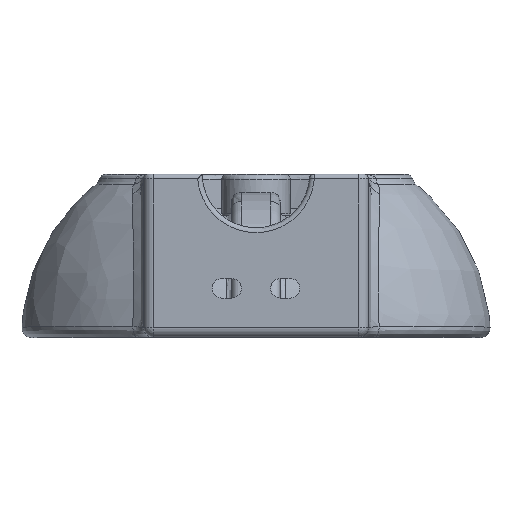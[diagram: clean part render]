
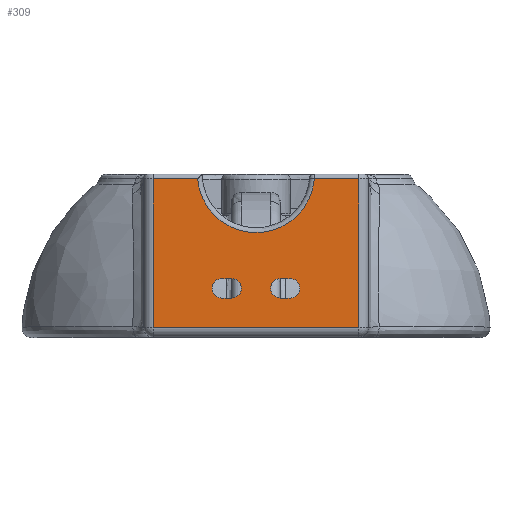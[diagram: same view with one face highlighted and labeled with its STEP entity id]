
A CAD part, top view. The second image highlights one B-rep face of the part: STEP entity #309.
In plain terms, the highlighted planar face has unit normal (0, 0, 1).
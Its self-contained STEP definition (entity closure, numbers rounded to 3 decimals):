
#309 = ADVANCED_FACE( '', ( #629, #630, #631 ), #632, .T. );
#629 = FACE_BOUND( '', #42949, .T. );
#630 = FACE_OUTER_BOUND( '', #42950, .T. );
#631 = FACE_BOUND( '', #42951, .T. );
#632 = PLANE( '', #42952 );
#42949 = EDGE_LOOP( '', ( #43764, #43765, #43766, #43767 ) );
#42950 = EDGE_LOOP( '', ( #43768, #43769, #43770, #43771, #43772, #43773 ) );
#42951 = EDGE_LOOP( '', ( #43774, #43775, #43776, #43777 ) );
#42952 = AXIS2_PLACEMENT_3D( '', #43778, #43779, #43780 );
#43764 = ORIENTED_EDGE( '', *, *, #44103, .F. );
#43765 = ORIENTED_EDGE( '', *, *, #43937, .F. );
#43766 = ORIENTED_EDGE( '', *, *, #43941, .F. );
#43767 = ORIENTED_EDGE( '', *, *, #44053, .F. );
#43768 = ORIENTED_EDGE( '', *, *, #44027, .T. );
#43769 = ORIENTED_EDGE( '', *, *, #43970, .T. );
#43770 = ORIENTED_EDGE( '', *, *, #44107, .T. );
#43771 = ORIENTED_EDGE( '', *, *, #44086, .T. );
#43772 = ORIENTED_EDGE( '', *, *, #43918, .T. );
#43773 = ORIENTED_EDGE( '', *, *, #43869, .T. );
#43774 = ORIENTED_EDGE( '', *, *, #43997, .T. );
#43775 = ORIENTED_EDGE( '', *, *, #43849, .T. );
#43776 = ORIENTED_EDGE( '', *, *, #43980, .T. );
#43777 = ORIENTED_EDGE( '', *, *, #43977, .T. );
#43778 = CARTESIAN_POINT( '', ( 115., 0., 280. ) );
#43779 = DIRECTION( '', ( 0., 0., 1. ) );
#43780 = DIRECTION( '', ( 1., 0., 0. ) );
#43849 = EDGE_CURVE( '', #44221, #44219, #44222, .T. );
#43869 = EDGE_CURVE( '', #44257, #44255, #44258, .F. );
#43918 = EDGE_CURVE( '', #44334, #44257, #44335, .T. );
#43937 = EDGE_CURVE( '', #44364, #44366, #44367, .T. );
#43941 = EDGE_CURVE( '', #44370, #44364, #44372, .T. );
#43970 = EDGE_CURVE( '', #44405, #44413, #44415, .F. );
#43977 = EDGE_CURVE( '', #44423, #44421, #44424, .T. );
#43980 = EDGE_CURVE( '', #44219, #44423, #44427, .T. );
#43997 = EDGE_CURVE( '', #44421, #44221, #44450, .T. );
#44027 = EDGE_CURVE( '', #44255, #44405, #44487, .T. );
#44053 = EDGE_CURVE( '', #44515, #44370, #44517, .T. );
#44086 = EDGE_CURVE( '', #44552, #44334, #44554, .T. );
#44103 = EDGE_CURVE( '', #44366, #44515, #44568, .T. );
#44107 = EDGE_CURVE( '', #44413, #44552, #44572, .F. );
#44219 = VERTEX_POINT( '', #46787 );
#44221 = VERTEX_POINT( '', #46790 );
#44222 = CIRCLE( '', #46791, 10. );
#44255 = VERTEX_POINT( '', #47001 );
#44257 = VERTEX_POINT( '', #47024 );
#44258 = CIRCLE( '', #47025, 60. );
#44334 = VERTEX_POINT( '', #47460 );
#44335 = LINE( '', #47461, #47462 );
#44364 = VERTEX_POINT( '', #47501 );
#44366 = VERTEX_POINT( '', #47504 );
#44367 = LINE( '', #47505, #47506 );
#44370 = VERTEX_POINT( '', #47510 );
#44372 = CIRCLE( '', #47513, 10. );
#44405 = VERTEX_POINT( '', #47732 );
#44413 = VERTEX_POINT( '', #47741 );
#44415 = LINE( '', #47743, #47744 );
#44421 = VERTEX_POINT( '', #47750 );
#44423 = VERTEX_POINT( '', #47753 );
#44424 = CIRCLE( '', #47754, 10. );
#44427 = LINE( '', #47758, #47759 );
#44450 = LINE( '', #47885, #47886 );
#44487 = LINE( '', #48808, #48809 );
#44515 = VERTEX_POINT( '', #48968 );
#44517 = LINE( '', #48971, #48972 );
#44552 = VERTEX_POINT( '', #50235 );
#44554 = LINE( '', #50237, #50238 );
#44568 = CIRCLE( '', #50975, 10. );
#44572 = LINE( '', #50979, #50980 );
#46787 = CARTESIAN_POINT( '', ( -35., 60., 280. ) );
#46790 = CARTESIAN_POINT( '', ( -35., 40., 280. ) );
#46791 = AXIS2_PLACEMENT_3D( '', #51035, #51036, #51037 );
#47001 = CARTESIAN_POINT( '', ( -59.791, 162., 280. ) );
#47024 = CARTESIAN_POINT( '', ( 59.791, 162., 280. ) );
#47025 = AXIS2_PLACEMENT_3D( '', #51054, #51055, #51056 );
#47460 = CARTESIAN_POINT( '', ( 105., 162., 280. ) );
#47461 = CARTESIAN_POINT( '', ( 115., 162., 280. ) );
#47462 = VECTOR( '', #51107, 1000. );
#47501 = CARTESIAN_POINT( '', ( 25., 40., 280. ) );
#47504 = CARTESIAN_POINT( '', ( 35., 40., 280. ) );
#47505 = CARTESIAN_POINT( '', ( 25., 40., 280. ) );
#47506 = VECTOR( '', #51134, 1000. );
#47510 = CARTESIAN_POINT( '', ( 25., 60., 280. ) );
#47513 = AXIS2_PLACEMENT_3D( '', #51137, #51138, #51139 );
#47732 = CARTESIAN_POINT( '', ( -105., 162., 280. ) );
#47741 = CARTESIAN_POINT( '', ( -105., 10., 280. ) );
#47743 = CARTESIAN_POINT( '', ( -105., 0., 280. ) );
#47744 = VECTOR( '', #51175, 1000. );
#47750 = CARTESIAN_POINT( '', ( -25., 40., 280. ) );
#47753 = CARTESIAN_POINT( '', ( -25., 60., 280. ) );
#47754 = AXIS2_PLACEMENT_3D( '', #51183, #51184, #51185 );
#47758 = CARTESIAN_POINT( '', ( -35., 60., 280. ) );
#47759 = VECTOR( '', #51187, 1000. );
#47885 = CARTESIAN_POINT( '', ( -25., 40., 280. ) );
#47886 = VECTOR( '', #51203, 1000. );
#48808 = CARTESIAN_POINT( '', ( 115., 162., 280. ) );
#48809 = VECTOR( '', #51232, 1000. );
#48968 = CARTESIAN_POINT( '', ( 35., 60., 280. ) );
#48971 = CARTESIAN_POINT( '', ( 35., 60., 280. ) );
#48972 = VECTOR( '', #51261, 1000. );
#50235 = CARTESIAN_POINT( '', ( 105., 10., 280. ) );
#50237 = CARTESIAN_POINT( '', ( 105., 162., 280. ) );
#50238 = VECTOR( '', #51285, 1000. );
#50975 = AXIS2_PLACEMENT_3D( '', #51290, #51291, #51292 );
#50979 = CARTESIAN_POINT( '', ( 115., 10., 280. ) );
#50980 = VECTOR( '', #51296, 1000. );
#51035 = CARTESIAN_POINT( '', ( -35., 50., 280. ) );
#51036 = DIRECTION( '', ( 0., 0., -1. ) );
#51037 = DIRECTION( '', ( 1., 0., 0. ) );
#51054 = CARTESIAN_POINT( '', ( 0., 167., 280. ) );
#51055 = DIRECTION( '', ( 0., 0., 1. ) );
#51056 = DIRECTION( '', ( 1., 0., 0. ) );
#51107 = DIRECTION( '', ( -1., 0., 0. ) );
#51134 = DIRECTION( '', ( 1., 0., 0. ) );
#51137 = CARTESIAN_POINT( '', ( 25., 50., 280. ) );
#51138 = DIRECTION( '', ( 0., 0., 1. ) );
#51139 = DIRECTION( '', ( 1., 0., 0. ) );
#51175 = DIRECTION( '', ( 0., 1., 0. ) );
#51183 = CARTESIAN_POINT( '', ( -25., 50., 280. ) );
#51184 = DIRECTION( '', ( 0., 0., -1. ) );
#51185 = DIRECTION( '', ( -1., 0., 0. ) );
#51187 = DIRECTION( '', ( 1., 0., 0. ) );
#51203 = DIRECTION( '', ( -1., 0., 0. ) );
#51232 = DIRECTION( '', ( -1., 0., 0. ) );
#51261 = DIRECTION( '', ( -1., 0., 0. ) );
#51285 = DIRECTION( '', ( 0., 1., 0. ) );
#51290 = CARTESIAN_POINT( '', ( 35., 50., 280. ) );
#51291 = DIRECTION( '', ( 0., 0., 1. ) );
#51292 = DIRECTION( '', ( -1., 0., 0. ) );
#51296 = DIRECTION( '', ( -1., 0., 0. ) );
